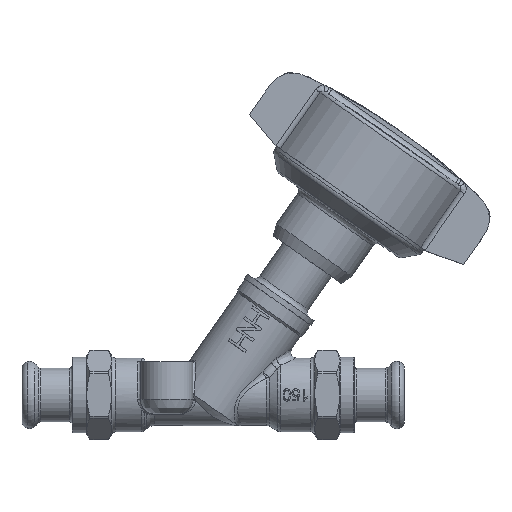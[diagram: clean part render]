
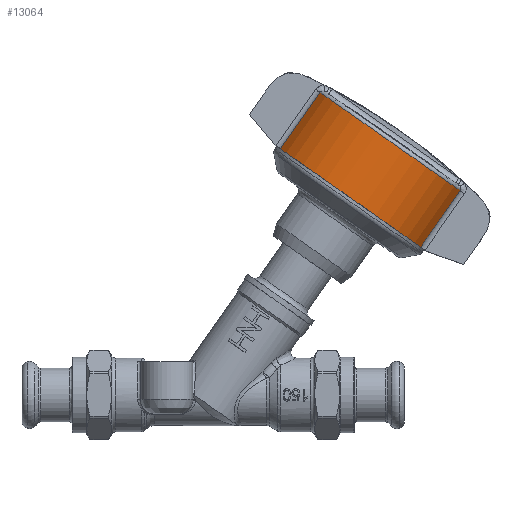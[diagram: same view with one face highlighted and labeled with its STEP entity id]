
A CAD part, top view. The second image highlights one B-rep face of the part: STEP entity #13064.
In plain terms, the highlighted cylindrical face has radius 31.925 mm (diameter 63.85 mm), a partial arc.
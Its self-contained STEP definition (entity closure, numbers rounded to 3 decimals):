
#11923=CARTESIAN_POINT('',(41.5,70.335,12.328));
#11924=VERTEX_POINT('',#11923);
#11932=CARTESIAN_POINT('',(27.906,50.921,12.328));
#11933=VERTEX_POINT('',#11932);
#11934=CARTESIAN_POINT('',(41.5,70.335,12.328));
#11935=DIRECTION('',(-0.574,-0.819,0.));
#11936=VECTOR('',#11935,23.7);
#11937=LINE('',#11934,#11936);
#11938=EDGE_CURVE('',#11924,#11933,#11937,.T.);
#12333=CARTESIAN_POINT('',(-6.746,104.118,12.328));
#12334=VERTEX_POINT('',#12333);
#12364=CARTESIAN_POINT('',(-20.34,84.704,12.328));
#12365=VERTEX_POINT('',#12364);
#12373=CARTESIAN_POINT('',(-20.34,84.704,12.328));
#12374=DIRECTION('',(0.574,0.819,0.0));
#12375=VECTOR('',#12374,23.7);
#12376=LINE('',#12373,#12375);
#12377=EDGE_CURVE('',#12365,#12334,#12376,.T.);
#13037=CARTESIAN_POINT('',(17.377,87.226,0.0));
#13038=DIRECTION('',(-0.574,-0.819,0.0));
#13039=DIRECTION('',(0.819,-0.574,0.0));
#13040=AXIS2_PLACEMENT_3D('',#13037,#13038,#13039);
#13041=CIRCLE('',#13040,31.925);
#13042=EDGE_CURVE('',#11924,#12334,#13041,.T.);
#13047=CARTESIAN_POINT('',(10.58,77.519,0.0));
#13048=DIRECTION('',(-0.574,-0.819,0.0));
#13049=DIRECTION('',(0.819,-0.574,0.0));
#13050=AXIS2_PLACEMENT_3D('',#13047,#13048,#13049);
#13051=CYLINDRICAL_SURFACE('',#13050,31.925);
#13052=ORIENTED_EDGE('',*,*,#11938,.F.);
#13053=ORIENTED_EDGE('',*,*,#13042,.T.);
#13054=ORIENTED_EDGE('',*,*,#12377,.F.);
#13055=CARTESIAN_POINT('',(3.783,67.813,0.0));
#13056=DIRECTION('',(-0.574,-0.819,0.0));
#13057=DIRECTION('',(0.819,-0.574,0.0));
#13058=AXIS2_PLACEMENT_3D('',#13055,#13056,#13057);
#13059=CIRCLE('',#13058,31.925);
#13060=EDGE_CURVE('',#11933,#12365,#13059,.T.);
#13061=ORIENTED_EDGE('',*,*,#13060,.F.);
#13062=EDGE_LOOP('',(#13052,#13053,#13054,#13061));
#13063=FACE_OUTER_BOUND('',#13062,.T.);
#13064=ADVANCED_FACE('',(#13063),#13051,.T.);
